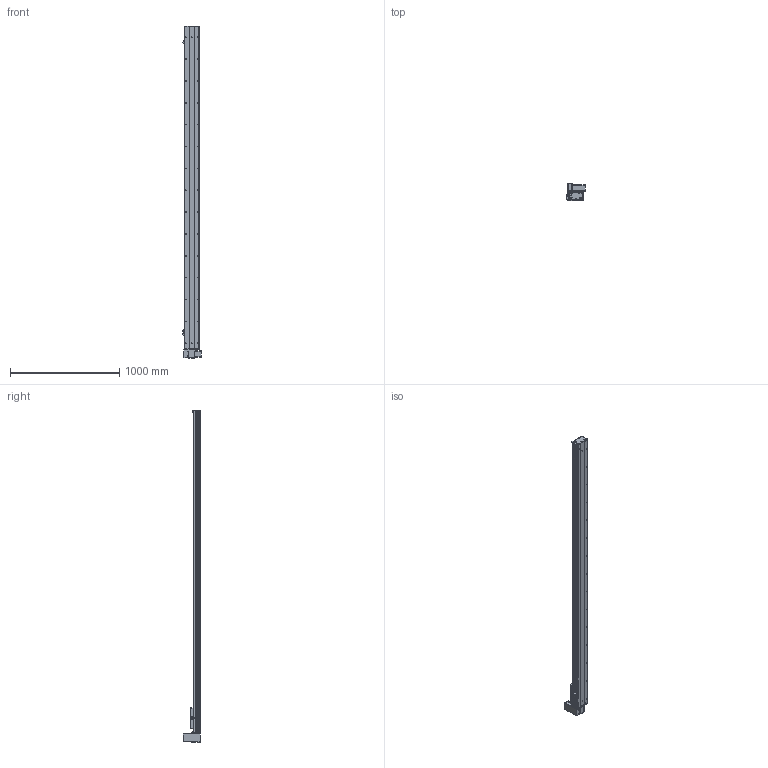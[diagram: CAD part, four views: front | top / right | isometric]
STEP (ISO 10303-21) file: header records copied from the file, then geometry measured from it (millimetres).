
FILE_DESCRIPTION (( 'STEP AP203' ), '1' );
FILE_NAME ('Y135CB-D90-S2650-UR-P400W.STEP', '2020-02-18T06:40:14', ( '微软用户' ), ( '微软中国' ), 'SwSTEP 2.0', 'SolidWorks 2017', '' );
FILE_SCHEMA (( 'CONFIG_CONTROL_DESIGN' ));
Length unit declared in the file: millimetre
Products named in the file (18): 0B-源倛裔啣; C-雄赽釱--; 0B-萇儂楊擘啣; Y10B--々湍喘謫眊--666; san松下电机400不带刹车----; Y10B-耜蚾蟀諉啣----; 5CB --掛极耜裔啣-; 00B-俋欶BM--; C-詩湍揤踡え-陔; Y135CB-D90-S2650-UR-P400W; 135CB--詩湍-CE; Y135CB-耜裔; Y100-135俋离換覜ん--; 135CB---遴掛极.-; 35CB---喘謫眊楊擘啣; Y135C-陔俋离換覜結え-; 0B-埴倛裔啣; 5C--俋欶
Assembly tree (21 placements, depth 2):
  Y135CB-D90-S2650-UR-P400W
    Y135CB-耜裔
    135CB---遴掛极.-
    35CB---喘謫眊楊擘啣
    0B-埴倛裔啣
    0B-源倛裔啣
    0B-萇儂楊擘啣
    san松下电机400不带刹车----
    5CB --掛极耜裔啣-  x2
    C-詩湍揤踡え-陔  x2
    135CB--詩湍-CE
    Y100-135俋离換覜ん--  x3
    Y135C-陔俋离換覜結え-
    5C--俋欶
    C-雄赽釱--
    Y10B--々湍喘謫眊--666
    Y10B-耜蚾蟀諉啣----
    00B-俋欶BM--
Bounding box: 167.5 x 158.7 x 3038 mm (x, y, z)
Volume: 8671413.2 mm3; surface area: 3436355.8 mm2
Topology: 21 solids, 21 shells, 977 faces, 2671 edges, 1770 vertices
Faces by surface type: cylinder 505, plane 456, cone 16
Entity records: 30965 total; most frequent: CARTESIAN_POINT 5164, DIRECTION 5147, ORIENTED_EDGE 4818, EDGE_CURVE 2409, AXIS2_PLACEMENT_3D 1889, VERTEX_POINT 1598, LINE 1369, VECTOR 1369
